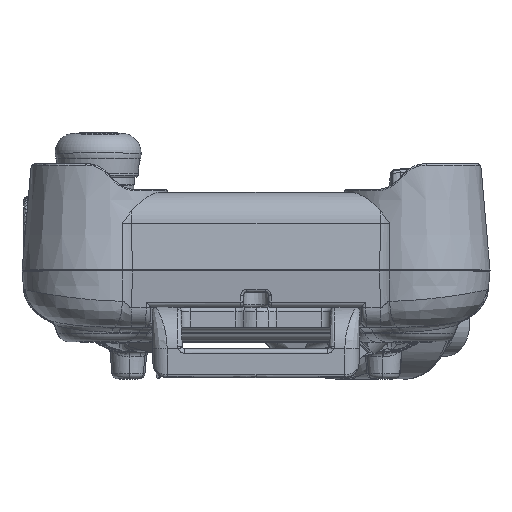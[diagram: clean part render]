
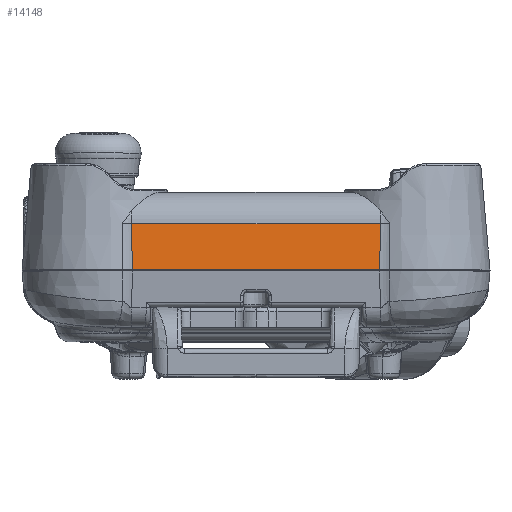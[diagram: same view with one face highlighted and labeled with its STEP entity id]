
A CAD part, top view. The second image highlights one B-rep face of the part: STEP entity #14148.
In plain terms, the highlighted planar face has unit normal (0, 0.087, 0.996).
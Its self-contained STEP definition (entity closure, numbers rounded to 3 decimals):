
#5888=CARTESIAN_POINT('Vertex',(43.09,0.,96.)) ;
#5891=CARTESIAN_POINT('Line Origine',(0.,0.,96.)) ;
#5895=CARTESIAN_POINT('Vertex',(-43.09,0.,96.)) ;
#6393=CARTESIAN_POINT('Control Point',(-43.328,16.046,94.596)) ;
#6394=CARTESIAN_POINT('Control Point',(-43.249,10.697,95.064)) ;
#6395=CARTESIAN_POINT('Control Point',(-43.169,5.349,95.532)) ;
#6396=CARTESIAN_POINT('Control Point',(-43.09,0.,96.)) ;
#6397=CARTESIAN_POINT('Vertex',(-43.328,16.046,94.596)) ;
#6462=CARTESIAN_POINT('Line Origine',(43.328,16.046,94.596)) ;
#6466=CARTESIAN_POINT('Vertex',(43.328,16.046,94.596)) ;
#14119=CARTESIAN_POINT('Control Point',(43.328,16.046,94.596)) ;
#14120=CARTESIAN_POINT('Control Point',(43.249,10.697,95.064)) ;
#14121=CARTESIAN_POINT('Control Point',(43.169,5.349,95.532)) ;
#14122=CARTESIAN_POINT('Control Point',(43.09,0.,96.)) ;
#14137=CARTESIAN_POINT('Axis2P3D Location',(43.828,-0.498,96.044)) ;
#5892=DIRECTION('Vector Direction',(-1.,0.,0.)) ;
#6463=DIRECTION('Vector Direction',(-1.,0.,0.)) ;
#14138=DIRECTION('Axis2P3D Direction',(0.,0.087,0.996)) ;
#14139=DIRECTION('Axis2P3D XDirection',(0.,0.996,-0.087)) ;
#14140=AXIS2_PLACEMENT_3D('Plane Axis2P3D',#14137,#14138,#14139) ;
#14143=ORIENTED_EDGE('',*,*,#5897,.F.) ;
#14144=ORIENTED_EDGE('',*,*,#14123,.F.) ;
#14145=ORIENTED_EDGE('',*,*,#6468,.T.) ;
#14146=ORIENTED_EDGE('',*,*,#6399,.T.) ;
#5893=VECTOR('Line Direction',#5892,1.) ;
#6464=VECTOR('Line Direction',#6463,1.) ;
#14148=ADVANCED_FACE('\X2\FF8AFF9FFF70FF82\X0\ \X2\FF8EFF9EFF83FF9EFF68FF70\X0\',(#14147),#14141,.T.) ;
#6392=B_SPLINE_CURVE_WITH_KNOTS('',3,(#6393,#6394,#6395,#6396),.UNSPECIFIED.,.F.,.U.,(4,4),(0.125,16.233),.UNSPECIFIED.) ;
#14118=B_SPLINE_CURVE_WITH_KNOTS('',3,(#14119,#14120,#14121,#14122),.UNSPECIFIED.,.F.,.U.,(4,4),(0.125,16.233),.UNSPECIFIED.) ;
#5897=EDGE_CURVE('',#5889,#5896,#5894,.T.) ;
#6399=EDGE_CURVE('',#6398,#5896,#6392,.T.) ;
#6468=EDGE_CURVE('',#6467,#6398,#6465,.T.) ;
#14123=EDGE_CURVE('',#6467,#5889,#14118,.T.) ;
#14142=EDGE_LOOP('',(#14143,#14144,#14145,#14146)) ;
#14147=FACE_OUTER_BOUND('',#14142,.T.) ;
#5894=LINE('Line',#5891,#5893) ;
#6465=LINE('Line',#6462,#6464) ;
#14141=PLANE('',#14140) ;
#5889=VERTEX_POINT('',#5888) ;
#5896=VERTEX_POINT('',#5895) ;
#6398=VERTEX_POINT('',#6397) ;
#6467=VERTEX_POINT('',#6466) ;
